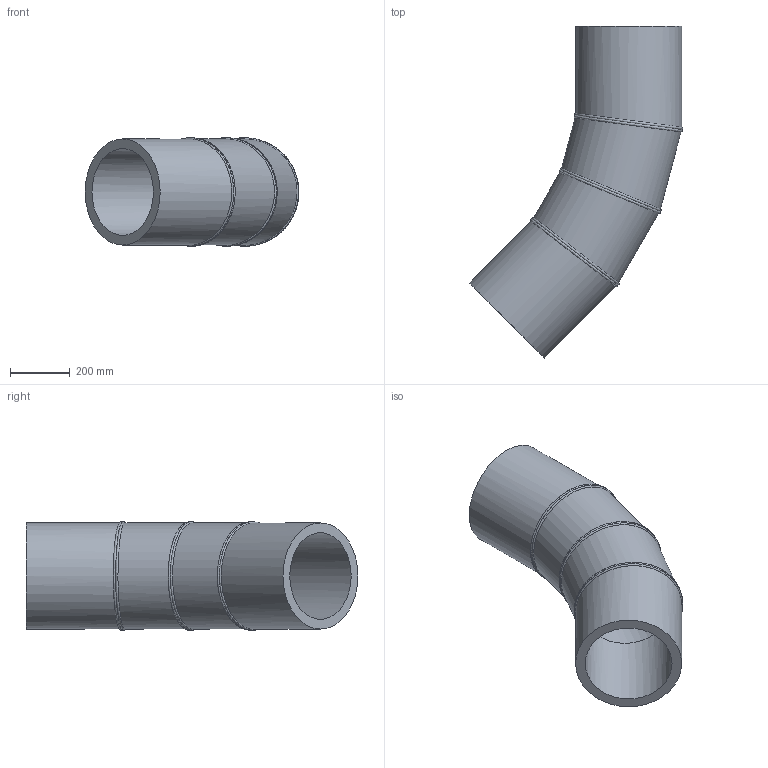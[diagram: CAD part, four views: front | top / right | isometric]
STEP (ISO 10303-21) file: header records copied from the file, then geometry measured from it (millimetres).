
FILE_DESCRIPTION(/* description */ ('Unknown'),/* implementation_level */ '2;1');
FILE_NAME(/* name */ 'Curva 45° a settore DE355 SDR11',/* time_stamp */ '2022-07-26T09:23:53+02:00',/* author */ ('Unknown'),/* organization */ ('Unknown'),/* preprocessor_version */ 'ST-DEVELOPER v18.102',/* originating_system */ 'Solid Edge',/* authorisation */ 'Unknown');
FILE_SCHEMA (('AUTOMOTIVE_DESIGN {1 0 10303 214 3 1 1}'));
Length unit declared in the file: millimetre
Products named in the file (3): Curva 45° a settore DE355 SDR11; Tubo x Gomito 45° DE355 SDR11 - 1; Tubo x Gomito 45° DE355 SDR11 - 2
Assembly tree (4 placements, depth 2):
  Curva 45° a settore DE355 SDR11
    Tubo x Gomito 45° DE355 SDR11 - 1  x2
    Tubo x Gomito 45° DE355 SDR11 - 2  x2
Bounding box: 715.3 x 1111.23 x 362.99 mm (x, y, z)
Volume: 36751110 mm3; surface area: 2566852 mm2
Topology: 4 solids, 4 shells, 34 faces, 74 edges, 48 vertices
Faces by surface type: cylinder 20, plane 8, bspline 6
Full cylindrical faces by diameter (mm): 290.6 x4, 355 x4
Entity records: 2349 total; most frequent: CARTESIAN_POINT 1947, DIRECTION 72, ORIENTED_EDGE 52, AXIS2_PLACEMENT_3D 36, EDGE_LOOP 28, FACE_BOUND 28, EDGE_CURVE 26, VERTEX_POINT 20
